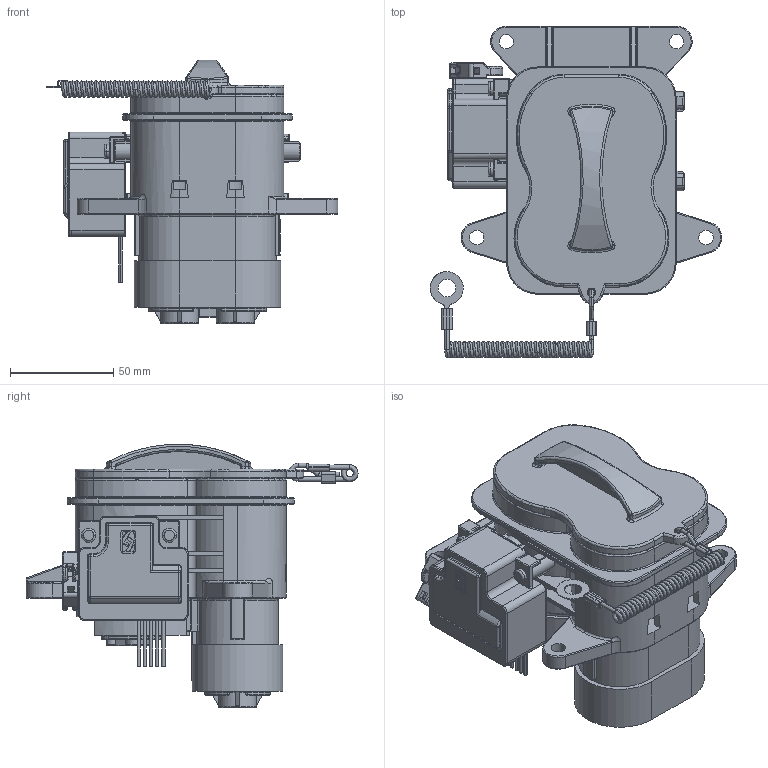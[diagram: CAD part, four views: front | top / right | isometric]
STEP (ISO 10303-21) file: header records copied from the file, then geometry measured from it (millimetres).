
FILE_DESCRIPTION((''),'2;1');
FILE_NAME('CCS2_200A_ASM','2022-05-15T10:47:51',('yangpl'),(''),'CREO PARAMETRIC BY PTC INC, 2019224','CREO PARAMETRIC BY PTC INC, 2019224','');
FILE_SCHEMA(('CONFIG_CONTROL_DESIGN'));
Products named in the file (3): PRT0001; PRT0002; CCS2_200A_ASM
Assembly tree (2 placements, depth 2):
  CCS2_200A_ASM
    PRT0001
    PRT0002
Bounding box: 141.03 x 160.68 x 127.45 mm (x, y, z)
Volume: 550746.1 mm3; surface area: 167622.1 mm2
Topology: 3 solids, 6 shells, 3766 faces, 10273 edges, 6580 vertices
Faces by surface type: plane 2200, cylinder 881, torus 375, cone 114, bspline 91, sphere 71, extrusion 34
Entity records: 131034 total; most frequent: CARTESIAN_POINT 35540, ORIENTED_EDGE 20394, DIRECTION 19433, EDGE_CURVE 10197, VECTOR 6893, LINE 6859, VERTEX_POINT 6580, AXIS2_PLACEMENT_3D 6270
